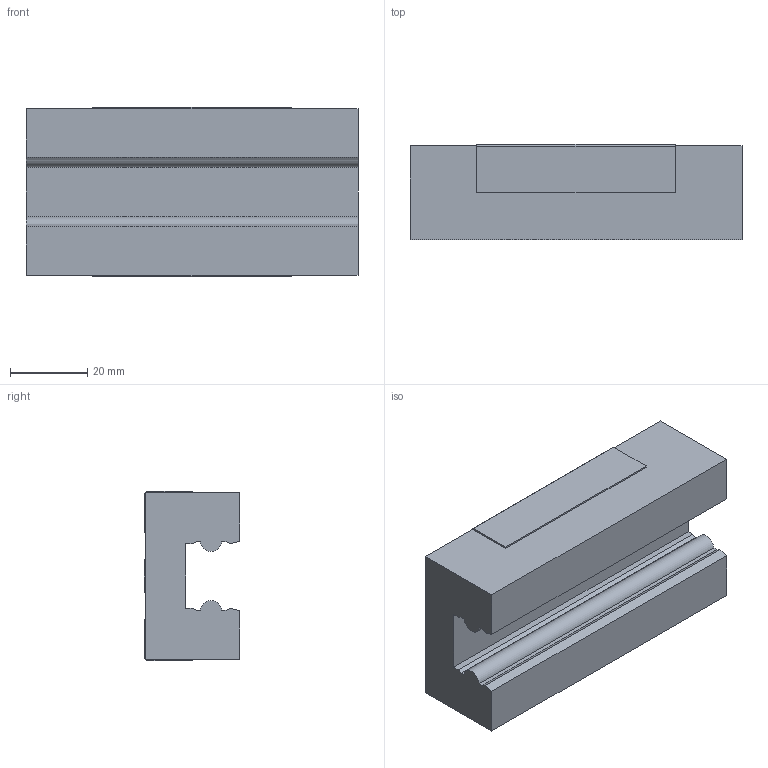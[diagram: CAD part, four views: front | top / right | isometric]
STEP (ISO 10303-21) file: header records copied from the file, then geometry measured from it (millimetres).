
FILE_DESCRIPTION( ( '' ), '1' );
FILE_NAME( 'c:/dr_tretter_step_out/schienenfuehrungen/alu_sf/gns_2000.stp', '2008-09-03T09:11:49', ( '' ), ( '' ), ' ', ' ', ' ' );
FILE_SCHEMA( ( 'CONFIG_CONTROL_DESIGN' ) );
Length unit declared in the file: millimetre
Products named in the file (1): 1
Bounding box: 86 x 24.7 x 44 mm (x, y, z)
Volume: 71122.8 mm3; surface area: 16808.2 mm2
Topology: 1 solids, 1 shells, 74 faces, 192 edges, 116 vertices
Faces by surface type: plane 48, cone 16, cylinder 10
Entity records: 2200 total; most frequent: CARTESIAN_POINT 375, ORIENTED_EDGE 368, DIRECTION 362, EDGE_CURVE 184, LINE 156, VECTOR 156, VERTEX_POINT 116, AXIS2_PLACEMENT_3D 103
